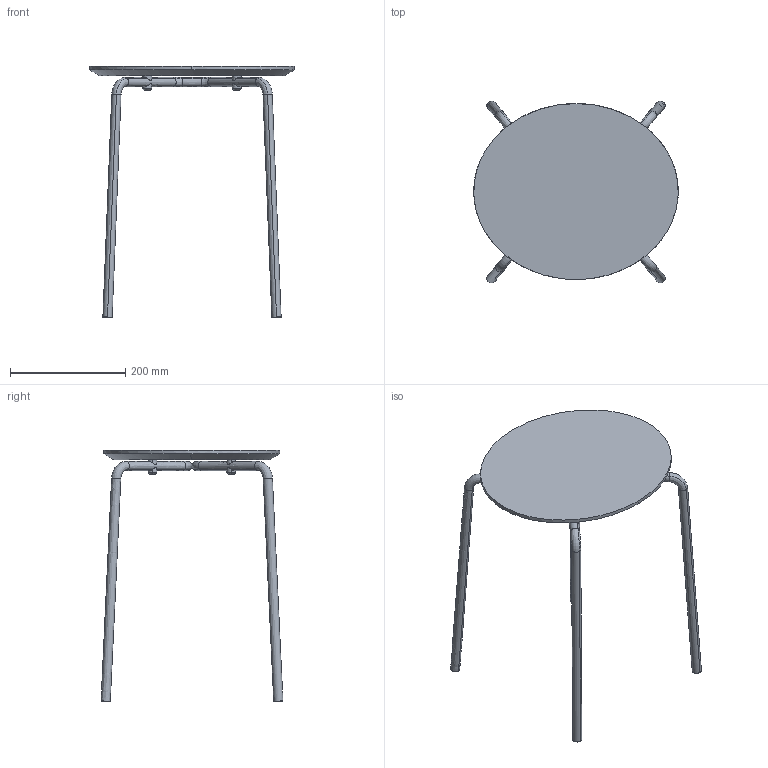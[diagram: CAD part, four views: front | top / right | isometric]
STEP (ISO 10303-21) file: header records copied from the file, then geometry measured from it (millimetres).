
FILE_DESCRIPTION(/* description */ (''),/* implementation_level */ '2;1');
FILE_NAME(/* name */ 'H1E1GK~V',/* time_stamp */ '2018-09-24T14:22:13+02:00',/* author */ (''),/* organization */ (''),/* preprocessor_version */ 'ST-DEVELOPER v15',/* originating_system */ '',/* authorisation */ '');
FILE_SCHEMA (('AUTOMOTIVE_DESIGN'));
Length unit declared in the file: millimetre
Products named in the file (1): Document
Bounding box: 354.54 x 315.31 x 435.24 mm (x, y, z)
Volume: 1743173.5 mm3; surface area: 304880.4 mm2
Topology: 7 solids, 11 shells, 134 faces, 296 edges, 178 vertices
Faces by surface type: bspline 134
Entity records: 15280 total; most frequent: CARTESIAN_POINT 11579, B_SPLINE_CURVE_WITH_KNOTS 589, ORIENTED_EDGE 571, PCURVE 571, DEFINITIONAL_REPRESENTATION 571, SURFACE_CURVE 296, EDGE_CURVE 296, VERTEX_POINT 178
